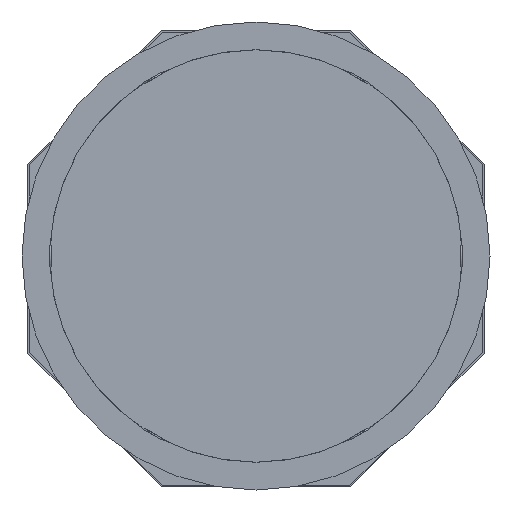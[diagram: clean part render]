
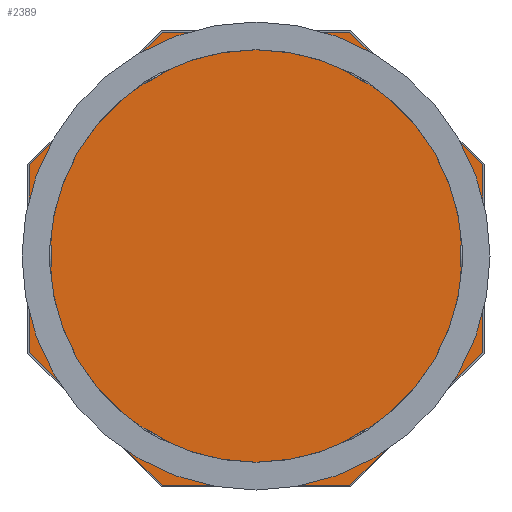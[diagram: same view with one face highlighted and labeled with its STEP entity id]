
A CAD part, front view. The second image highlights one B-rep face of the part: STEP entity #2389.
In plain terms, the highlighted planar face has unit normal (0, -1, 0).
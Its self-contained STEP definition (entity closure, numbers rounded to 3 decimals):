
#2011=DIRECTION('',(-0.707,0.,-0.707));
#2012=VECTOR('',#2011,270.896);
#2013=CARTESIAN_POINT('',(327.,52.75,-139.448));
#2014=LINE('',#2013,#2012);
#2019=DIRECTION('',(-0.707,0.,0.707));
#2020=VECTOR('',#2019,270.896);
#2021=CARTESIAN_POINT('',(-135.448,52.75,-331.));
#2022=LINE('',#2021,#2020);
#2027=DIRECTION('',(-1.,0.,0.));
#2028=VECTOR('',#2027,270.896);
#2029=CARTESIAN_POINT('',(135.448,52.75,-331.));
#2030=LINE('',#2029,#2028);
#2229=DIRECTION('',(0.,0.,-1.));
#2230=VECTOR('',#2229,270.896);
#2231=CARTESIAN_POINT('',(327.,52.75,131.448));
#2232=LINE('',#2231,#2230);
#2237=DIRECTION('',(0.707,0.,-0.707));
#2238=VECTOR('',#2237,270.896);
#2239=CARTESIAN_POINT('',(135.448,52.75,323.));
#2240=LINE('',#2239,#2238);
#2245=DIRECTION('',(1.,0.,0.));
#2246=VECTOR('',#2245,270.896);
#2247=CARTESIAN_POINT('',(-135.448,52.75,323.));
#2248=LINE('',#2247,#2246);
#2253=DIRECTION('',(0.707,0.,0.707));
#2254=VECTOR('',#2253,270.896);
#2255=CARTESIAN_POINT('',(-327.,52.75,131.448));
#2256=LINE('',#2255,#2254);
#2261=DIRECTION('',(0.,0.,1.));
#2262=VECTOR('',#2261,270.896);
#2263=CARTESIAN_POINT('',(-327.,52.75,-139.448));
#2264=LINE('',#2263,#2262);
#2317=CARTESIAN_POINT('',(-135.448,52.75,-331.));
#2318=CARTESIAN_POINT('',(-327.,52.75,-139.448));
#2319=VERTEX_POINT('',#2317);
#2320=VERTEX_POINT('',#2318);
#2321=CARTESIAN_POINT('',(135.448,52.75,-331.));
#2322=VERTEX_POINT('',#2321);
#2323=CARTESIAN_POINT('',(327.,52.75,-139.448));
#2324=VERTEX_POINT('',#2323);
#2325=CARTESIAN_POINT('',(327.,52.75,131.448));
#2326=VERTEX_POINT('',#2325);
#2327=CARTESIAN_POINT('',(135.448,52.75,323.));
#2328=VERTEX_POINT('',#2327);
#2329=CARTESIAN_POINT('',(-135.448,52.75,323.));
#2330=VERTEX_POINT('',#2329);
#2331=CARTESIAN_POINT('',(-327.,52.75,131.448));
#2332=VERTEX_POINT('',#2331);
#2367=CARTESIAN_POINT('',(0.,52.75,0.));
#2368=DIRECTION('',(0.,1.,0.));
#2369=DIRECTION('',(1.,0.,0.));
#2370=AXIS2_PLACEMENT_3D('',#2367,#2368,#2369);
#2371=PLANE('',#2370);
#2373=ORIENTED_EDGE('',*,*,#2372,.T.);
#2375=ORIENTED_EDGE('',*,*,#2374,.T.);
#2377=ORIENTED_EDGE('',*,*,#2376,.T.);
#2379=ORIENTED_EDGE('',*,*,#2378,.T.);
#2381=ORIENTED_EDGE('',*,*,#2380,.T.);
#2383=ORIENTED_EDGE('',*,*,#2382,.T.);
#2384=ORIENTED_EDGE('',*,*,#2356,.T.);
#2386=ORIENTED_EDGE('',*,*,#2385,.T.);
#2387=EDGE_LOOP('',(#2373,#2375,#2377,#2379,#2381,#2383,#2384,#2386));
#2388=FACE_OUTER_BOUND('',#2387,.F.);
#2356=EDGE_CURVE('',#2324,#2322,#2014,.T.);
#2372=EDGE_CURVE('',#2319,#2320,#2022,.T.);
#2374=EDGE_CURVE('',#2320,#2332,#2264,.T.);
#2376=EDGE_CURVE('',#2332,#2330,#2256,.T.);
#2378=EDGE_CURVE('',#2330,#2328,#2248,.T.);
#2380=EDGE_CURVE('',#2328,#2326,#2240,.T.);
#2382=EDGE_CURVE('',#2326,#2324,#2232,.T.);
#2385=EDGE_CURVE('',#2322,#2319,#2030,.T.);
#2389=ADVANCED_FACE('',(#2388),#2371,.F.);
